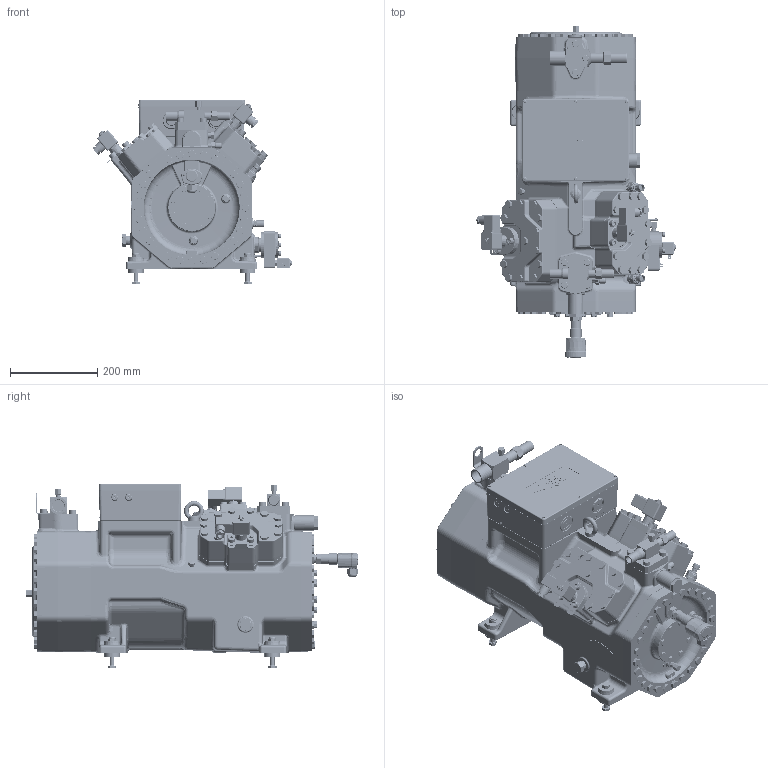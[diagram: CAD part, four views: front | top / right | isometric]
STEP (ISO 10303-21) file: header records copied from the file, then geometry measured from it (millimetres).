
FILE_DESCRIPTION(/* description */ (''),/* implementation_level */ '2;1');
FILE_NAME(/* name */ '4FTE-4CTE30K-Marine.stp',/* time_stamp */ '2024-10-28T08:16:20+01:00',/* author */ (''),/* organization */ (''),/* preprocessor_version */ 'ST-DEVELOPER v19.4',/* originating_system */ 'SIEMENS PLM Software NX2212.8901',/* authorisation */ '');
FILE_SCHEMA (('AUTOMOTIVE_DESIGN { 1 0 10303 214 3 1 1 1 }'));
Products named in the file (28): PLUG-1-4-18NPTF; ELECTRICAL-TERMINAL-BOX-IP65; DAMPER-ELEMENT-CKHE4-CME4; BLIND-FLANGE-HP-CO2; CRANKCASE-HEATER-200-260V-120W; CKHE4-BODY; HOUSING-COVER-CKH4-FLAT-ROUND; SEALING-SCREW-3-8-24-UNF; SEALING-SCREW-1-2-20-UNF; OIL-PRESS-CUT-OUT-DELTAP-2; BEARING-COVER-CKH5; OIL-LEVEL-MONITORING-OLM-IQ-2; PRESSURE-TRANSDUCER-5PP6-39-ND-01; PT1000; PLUG-1-8-27-NPTF-01; SOLENOID-VALVE-CAPACTIY-REGULA; SOLENOID-VALVE-CAPACTIY-REGULA-01; SHUT-OFF-VALVE-PS100-DN25; SHUT-OFF-VALVE-DN16; PROTECTIVE-CAP-F-PRESS-SAF; VALVE-COMPLETE-D28-LA66; BLIND-FLANGE-OVAL-01; HOUSING-COVER-CKH4-DEEP-ROUN; 4JTE-HTE-GTE-FTE-DTE-CTE-STD; 4JTEU-4HTEU-4GTEU20-4FTEU20; 4JTE-HTE-GTE-FTE-DTE-CTE-OPT; 4GTEU30-4FTEU30-4DTEU-4CTEU; 4JTE-4HTE-4GTE-4FTE-4DTE-4CTE
Assembly tree (30 placements, depth 3):
  4JTE-4HTE-4GTE-4FTE-4DTE-4CTE
    4GTEU30-4FTEU30-4DTEU-4CTEU
      HOUSING-COVER-CKH4-DEEP-ROUN
      BLIND-FLANGE-OVAL-01
    4JTE-HTE-GTE-FTE-DTE-CTE-OPT
      VALVE-COMPLETE-D28-LA66
      PROTECTIVE-CAP-F-PRESS-SAF
      SHUT-OFF-VALVE-DN16
      SHUT-OFF-VALVE-PS100-DN25
      SOLENOID-VALVE-CAPACTIY-REGULA-01
      SOLENOID-VALVE-CAPACTIY-REGULA
      PLUG-1-8-27-NPTF-01
      PT1000
      PRESSURE-TRANSDUCER-5PP6-39-ND-01  x2
      OIL-LEVEL-MONITORING-OLM-IQ-2
      BEARING-COVER-CKH5
      OIL-PRESS-CUT-OUT-DELTAP-2
      SEALING-SCREW-1-2-20-UNF
      SEALING-SCREW-3-8-24-UNF
    4JTEU-4HTEU-4GTEU20-4FTEU20
      HOUSING-COVER-CKH4-FLAT-ROUND
      BLIND-FLANGE-OVAL-01
    4JTE-HTE-GTE-FTE-DTE-CTE-STD
      CKHE4-BODY
      CRANKCASE-HEATER-200-260V-120W
      BLIND-FLANGE-HP-CO2
      DAMPER-ELEMENT-CKHE4-CME4
      ELECTRICAL-TERMINAL-BOX-IP65
      PLUG-1-8-27-NPTF-01
      PLUG-1-4-18NPTF
Bounding box: 457.2 x 760.2 x 422.9 mm (x, y, z)
Volume: 53867337.9 mm3; surface area: 1982051.8 mm2
Topology: 34 solids, 70 shells, 9423 faces, 23090 edges, 14353 vertices
Faces by surface type: plane 3577, cylinder 1966, cone 1259, bspline 996, extrusion 777, torus 614, sphere 228, revolution 6
Full cylindrical faces by diameter (mm): 1.5 x4, 1.52 x1, 1.8 x3, 2 x1, 2.5 x1, 3 x1, 3.2 x1, 3.5 x4, 4 x7, 4.5 x1, 4.9 x1, 5 x1, 5.2 x4, 5.795 x2, 6 x6, 6.5 x6, 7 x3, 7.6 x1, 8 x3, 8.5 x16, 8.782 x2, 8.985 x4, 9 x8, 9.1 x1, 9.342 x1, 9.5 x1, 9.65 x2, 9.8 x2, 9.921 x1, 10 x97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
Entity records: 307191 total; most frequent: CARTESIAN_POINT 93541, ORIENTED_EDGE 41814, DIRECTION 37719, EDGE_CURVE 20907, AXIS2_PLACEMENT_3D 14640, VERTEX_POINT 13552, EDGE_LOOP 10909, ADVANCED_FACE 9156
